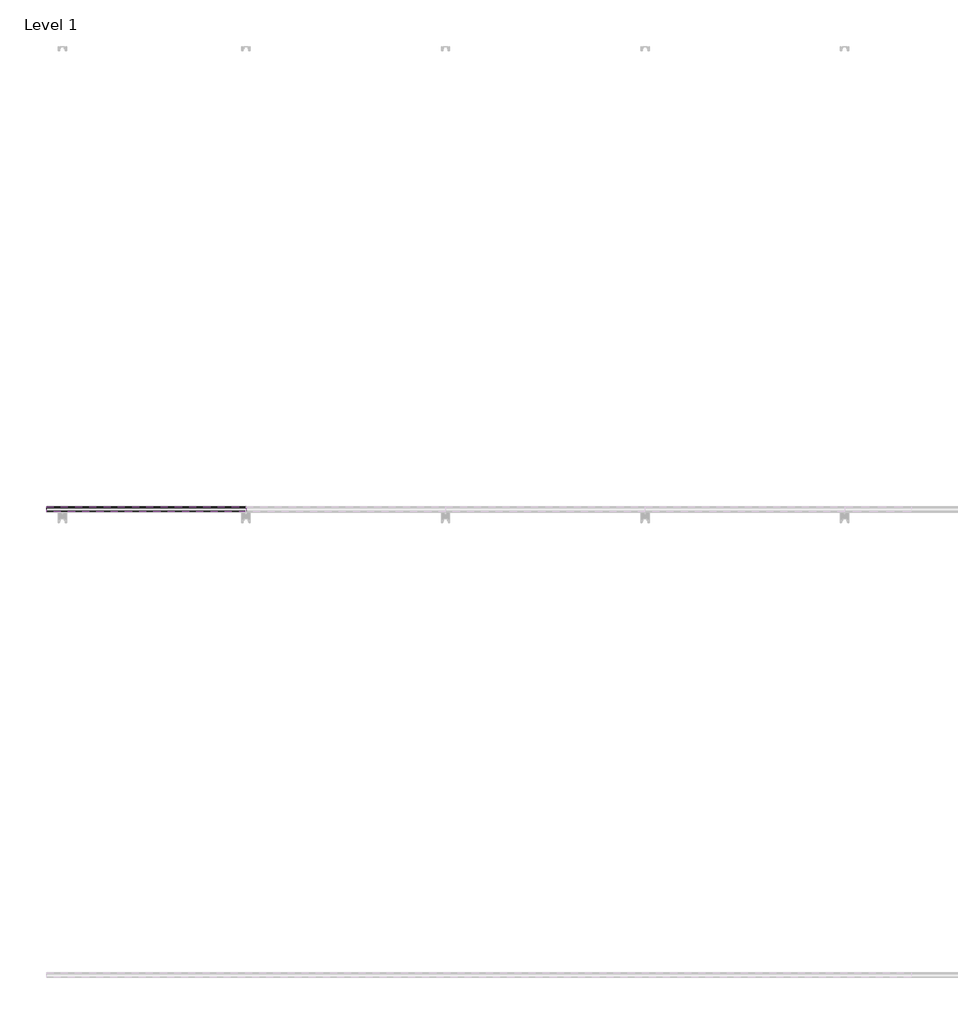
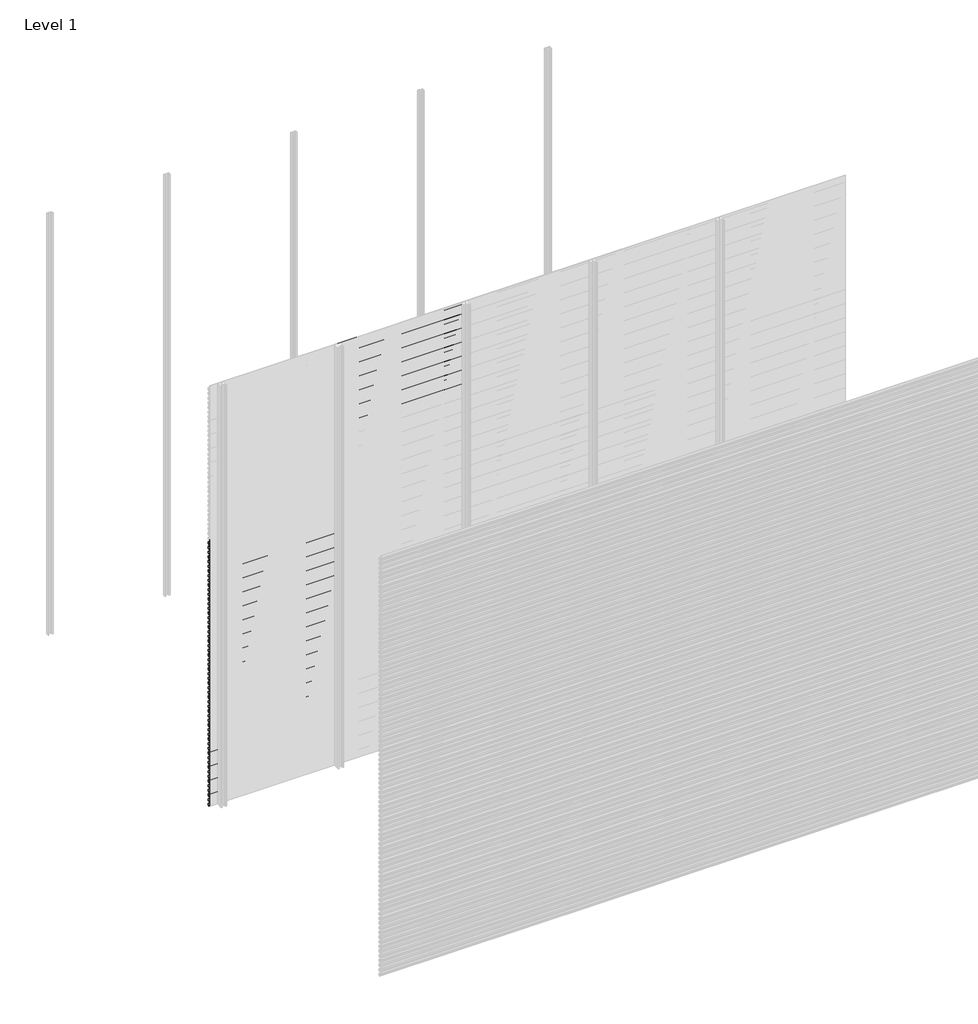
# One storey, part 71 of 96: 77 proxies.
"""IFC4 building model written with IfcOpenShell, lengths in millimetres."""

from ifc_helpers import new_model, si_unit, frame, origin, place, context, project, spatial, polyline, outline, extrude, element, save

model = new_model("IFC4")

# Units and contexts
model_context = context("Model", 3, world=origin())
ifc_project = project(units=[si_unit("LENGTHUNIT", "METRE", prefix="MILLI")], contexts=[model_context])

# Site, building, storey
site = spatial("IfcSite", under=ifc_project)
building = spatial("IfcBuilding", under=site)
storey = spatial("IfcBuildingStorey", under=building, Name="Level 1", Elevation=0.0)

# Proxies
placement = place(None, origin())
element("IfcBuildingElementProxy", 1, Name="Wall Sweeps", at=placement, inside=storey, context=model_context, shape_type="SweptSolid", body=[
    extrude(outline(polyline([(-11977.6, 1872.8655033), (-11977.6, 1858.5779188), (-11982.4114965, 1855.8), (-11982.4114965, 1857.0701706), (-11978.85, 1859.1264016), (-11978.85, 1872.1437382), (-11998.0, 1883.2000799), (-11998.0, 1898.1), (-11996.75, 1898.1), (-11996.75, 1883.9217609), (-11977.6, 1872.8655033)])), frame((0.0, 0.0, 0.0), z_axis=(1.0, 0.0, 0.0), x_axis=(0.0, 1.0, 0.0)), (0.0, 0.0, 1.0), 857.1428571),
])
element("IfcBuildingElementProxy", 2, Name="Wall Sweeps", at=placement, inside=storey, context=model_context, shape_type="SweptSolid", body=[
    extrude(outline(polyline([(-11977.6, 1839.5655033), (-11977.6, 1825.2779188), (-11982.4114965, 1822.5), (-11982.4114965, 1823.7701706), (-11978.85, 1825.8264016), (-11978.85, 1838.8437382), (-11998.0, 1849.9000799), (-11998.0, 1864.8), (-11996.75, 1864.8), (-11996.75, 1850.6217609), (-11977.6, 1839.5655033)])), frame((0.0, 0.0, 0.0), z_axis=(1.0, 0.0, 0.0), x_axis=(0.0, 1.0, 0.0)), (0.0, 0.0, 1.0), 857.1428571),
])
element("IfcBuildingElementProxy", 3, Name="Wall Sweeps", at=placement, inside=storey, context=model_context, shape_type="SweptSolid", body=[
    extrude(outline(polyline([(-11977.6, 1806.2655033), (-11977.6, 1791.9779188), (-11982.4114965, 1789.2), (-11982.4114965, 1790.4701706), (-11978.85, 1792.5264016), (-11978.85, 1805.5437382), (-11998.0, 1816.6000799), (-11998.0, 1831.5), (-11996.75, 1831.5), (-11996.75, 1817.3217609), (-11977.6, 1806.2655033)])), frame((0.0, 0.0, 0.0), z_axis=(1.0, 0.0, 0.0), x_axis=(0.0, 1.0, 0.0)), (0.0, 0.0, 1.0), 857.1428571),
])
element("IfcBuildingElementProxy", 4, Name="Wall Sweeps", at=placement, inside=storey, context=model_context, shape_type="SweptSolid", body=[
    extrude(outline(polyline([(-11977.6, 1772.9655033), (-11977.6, 1758.6779188), (-11982.4114965, 1755.9), (-11982.4114965, 1757.1701706), (-11978.85, 1759.2264016), (-11978.85, 1772.2437382), (-11998.0, 1783.3000799), (-11998.0, 1798.2), (-11996.75, 1798.2), (-11996.75, 1784.0217609), (-11977.6, 1772.9655033)])), frame((0.0, 0.0, 0.0), z_axis=(1.0, 0.0, 0.0), x_axis=(0.0, 1.0, 0.0)), (0.0, 0.0, 1.0), 857.1428571),
])
element("IfcBuildingElementProxy", 5, Name="Wall Sweeps", at=placement, inside=storey, context=model_context, shape_type="SweptSolid", body=[
    extrude(outline(polyline([(-11977.6, 1739.6655033), (-11977.6, 1725.3779188), (-11982.4114965, 1722.6), (-11982.4114965, 1723.8701706), (-11978.85, 1725.9264016), (-11978.85, 1738.9437382), (-11998.0, 1750.0000799), (-11998.0, 1764.9), (-11996.75, 1764.9), (-11996.75, 1750.7217609), (-11977.6, 1739.6655033)])), frame((0.0, 0.0, 0.0), z_axis=(1.0, 0.0, 0.0), x_axis=(0.0, 1.0, 0.0)), (0.0, 0.0, 1.0), 857.1428571),
])
element("IfcBuildingElementProxy", 6, Name="Wall Sweeps", at=placement, inside=storey, context=model_context, shape_type="SweptSolid", body=[
    extrude(outline(polyline([(-11977.6, 1706.3655033), (-11977.6, 1692.0779188), (-11982.4114965, 1689.3), (-11982.4114965, 1690.5701706), (-11978.85, 1692.6264016), (-11978.85, 1705.6437382), (-11998.0, 1716.7000799), (-11998.0, 1731.6), (-11996.75, 1731.6), (-11996.75, 1717.4217609), (-11977.6, 1706.3655033)])), frame((0.0, 0.0, 0.0), z_axis=(1.0, 0.0, 0.0), x_axis=(0.0, 1.0, 0.0)), (0.0, 0.0, 1.0), 857.1428571),
])
element("IfcBuildingElementProxy", 7, Name="Wall Sweeps", at=placement, inside=storey, context=model_context, shape_type="SweptSolid", body=[
    extrude(outline(polyline([(-11977.6, 1673.0655033), (-11977.6, 1658.7779188), (-11982.4114965, 1656.0), (-11982.4114965, 1657.2701706), (-11978.85, 1659.3264016), (-11978.85, 1672.3437382), (-11998.0, 1683.4000799), (-11998.0, 1698.3), (-11996.75, 1698.3), (-11996.75, 1684.1217609), (-11977.6, 1673.0655033)])), frame((0.0, 0.0, 0.0), z_axis=(1.0, 0.0, 0.0), x_axis=(0.0, 1.0, 0.0)), (0.0, 0.0, 1.0), 857.1428571),
])
element("IfcBuildingElementProxy", 8, Name="Wall Sweeps", at=placement, inside=storey, context=model_context, shape_type="SweptSolid", body=[
    extrude(outline(polyline([(-11977.6, 1639.7655033), (-11977.6, 1625.4779188), (-11982.4114965, 1622.7), (-11982.4114965, 1623.9701706), (-11978.85, 1626.0264016), (-11978.85, 1639.0437382), (-11998.0, 1650.1000799), (-11998.0, 1665.0), (-11996.75, 1665.0), (-11996.75, 1650.8217609), (-11977.6, 1639.7655033)])), frame((0.0, 0.0, 0.0), z_axis=(1.0, 0.0, 0.0), x_axis=(0.0, 1.0, 0.0)), (0.0, 0.0, 1.0), 857.1428571),
])
element("IfcBuildingElementProxy", 9, Name="Wall Sweeps", at=placement, inside=storey, context=model_context, shape_type="SweptSolid", body=[
    extrude(outline(polyline([(-11977.6, 1606.4655033), (-11977.6, 1592.1779188), (-11982.4114965, 1589.4), (-11982.4114965, 1590.6701706), (-11978.85, 1592.7264016), (-11978.85, 1605.7437382), (-11998.0, 1616.8000799), (-11998.0, 1631.7), (-11996.75, 1631.7), (-11996.75, 1617.5217609), (-11977.6, 1606.4655033)])), frame((0.0, 0.0, 0.0), z_axis=(1.0, 0.0, 0.0), x_axis=(0.0, 1.0, 0.0)), (0.0, 0.0, 1.0), 857.1428571),
])
element("IfcBuildingElementProxy", 10, Name="Wall Sweeps", at=placement, inside=storey, context=model_context, shape_type="SweptSolid", body=[
    extrude(outline(polyline([(-11977.6, 1573.1655033), (-11977.6, 1558.8779188), (-11982.4114965, 1556.1), (-11982.4114965, 1557.3701706), (-11978.85, 1559.4264016), (-11978.85, 1572.4437382), (-11998.0, 1583.5000799), (-11998.0, 1598.4), (-11996.75, 1598.4), (-11996.75, 1584.2217609), (-11977.6, 1573.1655033)])), frame((0.0, 0.0, 0.0), z_axis=(1.0, 0.0, 0.0), x_axis=(0.0, 1.0, 0.0)), (0.0, 0.0, 1.0), 857.1428571),
])
element("IfcBuildingElementProxy", 11, Name="Wall Sweeps", at=placement, inside=storey, context=model_context, shape_type="SweptSolid", body=[
    extrude(outline(polyline([(-11977.6, 1539.8655033), (-11977.6, 1525.5779188), (-11982.4114965, 1522.8), (-11982.4114965, 1524.0701706), (-11978.85, 1526.1264016), (-11978.85, 1539.1437382), (-11998.0, 1550.2000799), (-11998.0, 1565.1), (-11996.75, 1565.1), (-11996.75, 1550.9217609), (-11977.6, 1539.8655033)])), frame((0.0, 0.0, 0.0), z_axis=(1.0, 0.0, 0.0), x_axis=(0.0, 1.0, 0.0)), (0.0, 0.0, 1.0), 857.1428571),
])
element("IfcBuildingElementProxy", 12, Name="Wall Sweeps", at=placement, inside=storey, context=model_context, shape_type="SweptSolid", body=[
    extrude(outline(polyline([(-11977.6, 1506.5655033), (-11977.6, 1492.2779188), (-11982.4114965, 1489.5), (-11982.4114965, 1490.7701706), (-11978.85, 1492.8264016), (-11978.85, 1505.8437382), (-11998.0, 1516.9000799), (-11998.0, 1531.8), (-11996.75, 1531.8), (-11996.75, 1517.6217609), (-11977.6, 1506.5655033)])), frame((0.0, 0.0, 0.0), z_axis=(1.0, 0.0, 0.0), x_axis=(0.0, 1.0, 0.0)), (0.0, 0.0, 1.0), 857.1428571),
])
element("IfcBuildingElementProxy", 13, Name="Wall Sweeps", at=placement, inside=storey, context=model_context, shape_type="SweptSolid", body=[
    extrude(outline(polyline([(-11977.6, 1473.2655033), (-11977.6, 1458.9779188), (-11982.4114965, 1456.2), (-11982.4114965, 1457.4701706), (-11978.85, 1459.5264016), (-11978.85, 1472.5437382), (-11998.0, 1483.6000799), (-11998.0, 1498.5), (-11996.75, 1498.5), (-11996.75, 1484.3217609), (-11977.6, 1473.2655033)])), frame((0.0, 0.0, 0.0), z_axis=(1.0, 0.0, 0.0), x_axis=(0.0, 1.0, 0.0)), (0.0, 0.0, 1.0), 857.1428571),
])
element("IfcBuildingElementProxy", 14, Name="Wall Sweeps", at=placement, inside=storey, context=model_context, shape_type="SweptSolid", body=[
    extrude(outline(polyline([(-11977.6, 1439.9655033), (-11977.6, 1425.6779188), (-11982.4114965, 1422.9), (-11982.4114965, 1424.1701706), (-11978.85, 1426.2264016), (-11978.85, 1439.2437382), (-11998.0, 1450.3000799), (-11998.0, 1465.2), (-11996.75, 1465.2), (-11996.75, 1451.0217609), (-11977.6, 1439.9655033)])), frame((0.0, 0.0, 0.0), z_axis=(1.0, 0.0, 0.0), x_axis=(0.0, 1.0, 0.0)), (0.0, 0.0, 1.0), 857.1428571),
])
element("IfcBuildingElementProxy", 15, Name="Wall Sweeps", at=placement, inside=storey, context=model_context, shape_type="SweptSolid", body=[
    extrude(outline(polyline([(-11977.6, 1406.6655033), (-11977.6, 1392.3779188), (-11982.4114965, 1389.6), (-11982.4114965, 1390.8701706), (-11978.85, 1392.9264016), (-11978.85, 1405.9437382), (-11998.0, 1417.0000799), (-11998.0, 1431.9), (-11996.75, 1431.9), (-11996.75, 1417.7217609), (-11977.6, 1406.6655033)])), frame((0.0, 0.0, 0.0), z_axis=(1.0, 0.0, 0.0), x_axis=(0.0, 1.0, 0.0)), (0.0, 0.0, 1.0), 857.1428571),
])
element("IfcBuildingElementProxy", 16, Name="Wall Sweeps", at=placement, inside=storey, context=model_context, shape_type="SweptSolid", body=[
    extrude(outline(polyline([(-11977.6, 1373.3655033), (-11977.6, 1359.0779188), (-11982.4114965, 1356.3), (-11982.4114965, 1357.5701706), (-11978.85, 1359.6264016), (-11978.85, 1372.6437382), (-11998.0, 1383.7000799), (-11998.0, 1398.6), (-11996.75, 1398.6), (-11996.75, 1384.4217609), (-11977.6, 1373.3655033)])), frame((0.0, 0.0, 0.0), z_axis=(1.0, 0.0, 0.0), x_axis=(0.0, 1.0, 0.0)), (0.0, 0.0, 1.0), 857.1428571),
])
element("IfcBuildingElementProxy", 17, Name="Wall Sweeps", at=placement, inside=storey, context=model_context, shape_type="SweptSolid", body=[
    extrude(outline(polyline([(-11977.6, 1340.0655033), (-11977.6, 1325.7779188), (-11982.4114965, 1323.0), (-11982.4114965, 1324.2701706), (-11978.85, 1326.3264016), (-11978.85, 1339.3437382), (-11998.0, 1350.4000799), (-11998.0, 1365.3), (-11996.75, 1365.3), (-11996.75, 1351.1217609), (-11977.6, 1340.0655033)])), frame((0.0, 0.0, 0.0), z_axis=(1.0, 0.0, 0.0), x_axis=(0.0, 1.0, 0.0)), (0.0, 0.0, 1.0), 857.1428571),
])
element("IfcBuildingElementProxy", 18, Name="Wall Sweeps", at=placement, inside=storey, context=model_context, shape_type="SweptSolid", body=[
    extrude(outline(polyline([(-11977.6, 1306.7655033), (-11977.6, 1292.4779188), (-11982.4114965, 1289.7), (-11982.4114965, 1290.9701706), (-11978.85, 1293.0264016), (-11978.85, 1306.0437382), (-11998.0, 1317.1000799), (-11998.0, 1332.0), (-11996.75, 1332.0), (-11996.75, 1317.8217609), (-11977.6, 1306.7655033)])), frame((0.0, 0.0, 0.0), z_axis=(1.0, 0.0, 0.0), x_axis=(0.0, 1.0, 0.0)), (0.0, 0.0, 1.0), 857.1428571),
])
element("IfcBuildingElementProxy", 19, Name="Wall Sweeps", at=placement, inside=storey, context=model_context, shape_type="SweptSolid", body=[
    extrude(outline(polyline([(-11977.6, 1273.4655033), (-11977.6, 1259.1779188), (-11982.4114965, 1256.4), (-11982.4114965, 1257.6701706), (-11978.85, 1259.7264016), (-11978.85, 1272.7437382), (-11998.0, 1283.8000799), (-11998.0, 1298.7), (-11996.75, 1298.7), (-11996.75, 1284.5217609), (-11977.6, 1273.4655033)])), frame((0.0, 0.0, 0.0), z_axis=(1.0, 0.0, 0.0), x_axis=(0.0, 1.0, 0.0)), (0.0, 0.0, 1.0), 857.1428571),
])
element("IfcBuildingElementProxy", 20, Name="Wall Sweeps", at=placement, inside=storey, context=model_context, shape_type="SweptSolid", body=[
    extrude(outline(polyline([(-11977.6, 1240.1655033), (-11977.6, 1225.8779188), (-11982.4114965, 1223.1), (-11982.4114965, 1224.3701706), (-11978.85, 1226.4264016), (-11978.85, 1239.4437382), (-11998.0, 1250.5000799), (-11998.0, 1265.4), (-11996.75, 1265.4), (-11996.75, 1251.2217609), (-11977.6, 1240.1655033)])), frame((0.0, 0.0, 0.0), z_axis=(1.0, 0.0, 0.0), x_axis=(0.0, 1.0, 0.0)), (0.0, 0.0, 1.0), 857.1428571),
])
element("IfcBuildingElementProxy", 21, Name="Wall Sweeps", at=placement, inside=storey, context=model_context, shape_type="SweptSolid", body=[
    extrude(outline(polyline([(-11977.6, 1206.8655033), (-11977.6, 1192.5779188), (-11982.4114965, 1189.8), (-11982.4114965, 1191.0701706), (-11978.85, 1193.1264016), (-11978.85, 1206.1437382), (-11998.0, 1217.2000799), (-11998.0, 1232.1), (-11996.75, 1232.1), (-11996.75, 1217.9217609), (-11977.6, 1206.8655033)])), frame((0.0, 0.0, 0.0), z_axis=(1.0, 0.0, 0.0), x_axis=(0.0, 1.0, 0.0)), (0.0, 0.0, 1.0), 857.1428571),
])
element("IfcBuildingElementProxy", 22, Name="Wall Sweeps", at=placement, inside=storey, context=model_context, shape_type="SweptSolid", body=[
    extrude(outline(polyline([(-11977.6, 1173.5655033), (-11977.6, 1159.2779188), (-11982.4114965, 1156.5), (-11982.4114965, 1157.7701706), (-11978.85, 1159.8264016), (-11978.85, 1172.8437382), (-11998.0, 1183.9000799), (-11998.0, 1198.8), (-11996.75, 1198.8), (-11996.75, 1184.6217609), (-11977.6, 1173.5655033)])), frame((0.0, 0.0, 0.0), z_axis=(1.0, 0.0, 0.0), x_axis=(0.0, 1.0, 0.0)), (0.0, 0.0, 1.0), 857.1428571),
])
element("IfcBuildingElementProxy", 23, Name="Wall Sweeps", at=placement, inside=storey, context=model_context, shape_type="SweptSolid", body=[
    extrude(outline(polyline([(-11977.6, 1140.2655033), (-11977.6, 1125.9779188), (-11982.4114965, 1123.2), (-11982.4114965, 1124.4701706), (-11978.85, 1126.5264016), (-11978.85, 1139.5437382), (-11998.0, 1150.6000799), (-11998.0, 1165.5), (-11996.75, 1165.5), (-11996.75, 1151.3217609), (-11977.6, 1140.2655033)])), frame((0.0, 0.0, 0.0), z_axis=(1.0, 0.0, 0.0), x_axis=(0.0, 1.0, 0.0)), (0.0, 0.0, 1.0), 857.1428571),
])
element("IfcBuildingElementProxy", 24, Name="Wall Sweeps", at=placement, inside=storey, context=model_context, shape_type="SweptSolid", body=[
    extrude(outline(polyline([(-11977.6, 1106.9655033), (-11977.6, 1092.6779188), (-11982.4114965, 1089.9), (-11982.4114965, 1091.1701706), (-11978.85, 1093.2264016), (-11978.85, 1106.2437382), (-11998.0, 1117.3000799), (-11998.0, 1132.2), (-11996.75, 1132.2), (-11996.75, 1118.0217609), (-11977.6, 1106.9655033)])), frame((0.0, 0.0, 0.0), z_axis=(1.0, 0.0, 0.0), x_axis=(0.0, 1.0, 0.0)), (0.0, 0.0, 1.0), 857.1428571),
])
element("IfcBuildingElementProxy", 25, Name="Wall Sweeps", at=placement, inside=storey, context=model_context, shape_type="SweptSolid", body=[
    extrude(outline(polyline([(-11977.6, 1073.6655033), (-11977.6, 1059.3779188), (-11982.4114965, 1056.6), (-11982.4114965, 1057.8701706), (-11978.85, 1059.9264016), (-11978.85, 1072.9437382), (-11998.0, 1084.0000799), (-11998.0, 1098.9), (-11996.75, 1098.9), (-11996.75, 1084.7217609), (-11977.6, 1073.6655033)])), frame((0.0, 0.0, 0.0), z_axis=(1.0, 0.0, 0.0), x_axis=(0.0, 1.0, 0.0)), (0.0, 0.0, 1.0), 857.1428571),
])
element("IfcBuildingElementProxy", 26, Name="Wall Sweeps", at=placement, inside=storey, context=model_context, shape_type="SweptSolid", body=[
    extrude(outline(polyline([(-11977.6, 1040.3655033), (-11977.6, 1026.0779188), (-11982.4114965, 1023.3), (-11982.4114965, 1024.5701706), (-11978.85, 1026.6264016), (-11978.85, 1039.6437382), (-11998.0, 1050.7000799), (-11998.0, 1065.6), (-11996.75, 1065.6), (-11996.75, 1051.4217609), (-11977.6, 1040.3655033)])), frame((0.0, 0.0, 0.0), z_axis=(1.0, 0.0, 0.0), x_axis=(0.0, 1.0, 0.0)), (0.0, 0.0, 1.0), 857.1428571),
])
element("IfcBuildingElementProxy", 27, Name="Wall Sweeps", at=placement, inside=storey, context=model_context, shape_type="SweptSolid", body=[
    extrude(outline(polyline([(-11977.6, 1007.0655033), (-11977.6, 992.7779188), (-11982.4114965, 990.0), (-11982.4114965, 991.2701706), (-11978.85, 993.3264016), (-11978.85, 1006.3437382), (-11998.0, 1017.4000799), (-11998.0, 1032.3), (-11996.75, 1032.3), (-11996.75, 1018.1217609), (-11977.6, 1007.0655033)])), frame((0.0, 0.0, 0.0), z_axis=(1.0, 0.0, 0.0), x_axis=(0.0, 1.0, 0.0)), (0.0, 0.0, 1.0), 857.1428571),
])
element("IfcBuildingElementProxy", 28, Name="Wall Sweeps", at=placement, inside=storey, context=model_context, shape_type="SweptSolid", body=[
    extrude(outline(polyline([(-11977.6, 973.7655033), (-11977.6, 959.4779188), (-11982.4114965, 956.7), (-11982.4114965, 957.9701706), (-11978.85, 960.0264016), (-11978.85, 973.0437382), (-11998.0, 984.1000799), (-11998.0, 999.0), (-11996.75, 999.0), (-11996.75, 984.8217609), (-11977.6, 973.7655033)])), frame((0.0, 0.0, 0.0), z_axis=(1.0, 0.0, 0.0), x_axis=(0.0, 1.0, 0.0)), (0.0, 0.0, 1.0), 857.1428571),
])
element("IfcBuildingElementProxy", 29, Name="Wall Sweeps", at=placement, inside=storey, context=model_context, shape_type="SweptSolid", body=[
    extrude(outline(polyline([(-11977.6, 940.4655033), (-11977.6, 926.1779188), (-11982.4114965, 923.4), (-11982.4114965, 924.6701706), (-11978.85, 926.7264016), (-11978.85, 939.7437382), (-11998.0, 950.8000799), (-11998.0, 965.7), (-11996.75, 965.7), (-11996.75, 951.5217609), (-11977.6, 940.4655033)])), frame((0.0, 0.0, 0.0), z_axis=(1.0, 0.0, 0.0), x_axis=(0.0, 1.0, 0.0)), (0.0, 0.0, 1.0), 857.1428571),
])
element("IfcBuildingElementProxy", 30, Name="Wall Sweeps", at=placement, inside=storey, context=model_context, shape_type="SweptSolid", body=[
    extrude(outline(polyline([(-11977.6, 907.1655033), (-11977.6, 892.8779188), (-11982.4114965, 890.1), (-11982.4114965, 891.3701706), (-11978.85, 893.4264016), (-11978.85, 906.4437382), (-11998.0, 917.5000799), (-11998.0, 932.4), (-11996.75, 932.4), (-11996.75, 918.2217609), (-11977.6, 907.1655033)])), frame((0.0, 0.0, 0.0), z_axis=(1.0, 0.0, 0.0), x_axis=(0.0, 1.0, 0.0)), (0.0, 0.0, 1.0), 857.1428571),
])
element("IfcBuildingElementProxy", 31, Name="Wall Sweeps", at=placement, inside=storey, context=model_context, shape_type="SweptSolid", body=[
    extrude(outline(polyline([(-11977.6, 873.8655033), (-11977.6, 859.5779188), (-11982.4114965, 856.8), (-11982.4114965, 858.0701706), (-11978.85, 860.1264016), (-11978.85, 873.1437382), (-11998.0, 884.2000799), (-11998.0, 899.1), (-11996.75, 899.1), (-11996.75, 884.9217609), (-11977.6, 873.8655033)])), frame((0.0, 0.0, 0.0), z_axis=(1.0, 0.0, 0.0), x_axis=(0.0, 1.0, 0.0)), (0.0, 0.0, 1.0), 857.1428571),
])
element("IfcBuildingElementProxy", 32, Name="Wall Sweeps", at=placement, inside=storey, context=model_context, shape_type="SweptSolid", body=[
    extrude(outline(polyline([(-11977.6, 840.5655033), (-11977.6, 826.2779188), (-11982.4114965, 823.5), (-11982.4114965, 824.7701706), (-11978.85, 826.8264016), (-11978.85, 839.8437382), (-11998.0, 850.9000799), (-11998.0, 865.8), (-11996.75, 865.8), (-11996.75, 851.6217609), (-11977.6, 840.5655033)])), frame((0.0, 0.0, 0.0), z_axis=(1.0, 0.0, 0.0), x_axis=(0.0, 1.0, 0.0)), (0.0, 0.0, 1.0), 857.1428571),
])
element("IfcBuildingElementProxy", 33, Name="Wall Sweeps", at=placement, inside=storey, context=model_context, shape_type="SweptSolid", body=[
    extrude(outline(polyline([(-11977.6, 807.2655033), (-11977.6, 792.9779188), (-11982.4114965, 790.2), (-11982.4114965, 791.4701706), (-11978.85, 793.5264016), (-11978.85, 806.5437382), (-11998.0, 817.6000799), (-11998.0, 832.5), (-11996.75, 832.5), (-11996.75, 818.3217609), (-11977.6, 807.2655033)])), frame((0.0, 0.0, 0.0), z_axis=(1.0, 0.0, 0.0), x_axis=(0.0, 1.0, 0.0)), (0.0, 0.0, 1.0), 857.1428571),
])
element("IfcBuildingElementProxy", 34, Name="Wall Sweeps", at=placement, inside=storey, context=model_context, shape_type="SweptSolid", body=[
    extrude(outline(polyline([(-11977.6, 773.9655033), (-11977.6, 759.6779188), (-11982.4114965, 756.9), (-11982.4114965, 758.1701706), (-11978.85, 760.2264016), (-11978.85, 773.2437382), (-11998.0, 784.3000799), (-11998.0, 799.2), (-11996.75, 799.2), (-11996.75, 785.0217609), (-11977.6, 773.9655033)])), frame((0.0, 0.0, 0.0), z_axis=(1.0, 0.0, 0.0), x_axis=(0.0, 1.0, 0.0)), (0.0, 0.0, 1.0), 857.1428571),
])
element("IfcBuildingElementProxy", 35, Name="Wall Sweeps", at=placement, inside=storey, context=model_context, shape_type="SweptSolid", body=[
    extrude(outline(polyline([(-11977.6, 740.6655033), (-11977.6, 726.3779188), (-11982.4114965, 723.6), (-11982.4114965, 724.8701706), (-11978.85, 726.9264016), (-11978.85, 739.9437382), (-11998.0, 751.0000799), (-11998.0, 765.9), (-11996.75, 765.9), (-11996.75, 751.7217609), (-11977.6, 740.6655033)])), frame((0.0, 0.0, 0.0), z_axis=(1.0, 0.0, 0.0), x_axis=(0.0, 1.0, 0.0)), (0.0, 0.0, 1.0), 857.1428571),
])
element("IfcBuildingElementProxy", 36, Name="Wall Sweeps", at=placement, inside=storey, context=model_context, shape_type="SweptSolid", body=[
    extrude(outline(polyline([(-11977.6, 707.3655033), (-11977.6, 693.0779188), (-11982.4114965, 690.3), (-11982.4114965, 691.5701706), (-11978.85, 693.6264016), (-11978.85, 706.6437382), (-11998.0, 717.7000799), (-11998.0, 732.6), (-11996.75, 732.6), (-11996.75, 718.4217609), (-11977.6, 707.3655033)])), frame((0.0, 0.0, 0.0), z_axis=(1.0, 0.0, 0.0), x_axis=(0.0, 1.0, 0.0)), (0.0, 0.0, 1.0), 857.1428571),
])
element("IfcBuildingElementProxy", 37, Name="Wall Sweeps", at=placement, inside=storey, context=model_context, shape_type="SweptSolid", body=[
    extrude(outline(polyline([(-11977.6, 674.0655033), (-11977.6, 659.7779188), (-11982.4114965, 657.0), (-11982.4114965, 658.2701706), (-11978.85, 660.3264016), (-11978.85, 673.3437382), (-11998.0, 684.4000799), (-11998.0, 699.3), (-11996.75, 699.3), (-11996.75, 685.1217609), (-11977.6, 674.0655033)])), frame((0.0, 0.0, 0.0), z_axis=(1.0, 0.0, 0.0), x_axis=(0.0, 1.0, 0.0)), (0.0, 0.0, 1.0), 857.1428571),
])
element("IfcBuildingElementProxy", 38, Name="Wall Sweeps", at=placement, inside=storey, context=model_context, shape_type="SweptSolid", body=[
    extrude(outline(polyline([(-11977.6, 640.7655033), (-11977.6, 626.4779188), (-11982.4114965, 623.7), (-11982.4114965, 624.9701706), (-11978.85, 627.0264016), (-11978.85, 640.0437382), (-11998.0, 651.1000799), (-11998.0, 666.0), (-11996.75, 666.0), (-11996.75, 651.8217609), (-11977.6, 640.7655033)])), frame((0.0, 0.0, 0.0), z_axis=(1.0, 0.0, 0.0), x_axis=(0.0, 1.0, 0.0)), (0.0, 0.0, 1.0), 857.1428571),
])
element("IfcBuildingElementProxy", 39, Name="Wall Sweeps", at=placement, inside=storey, context=model_context, shape_type="SweptSolid", body=[
    extrude(outline(polyline([(-11977.6, 607.4655033), (-11977.6, 593.1779188), (-11982.4114965, 590.4), (-11982.4114965, 591.6701706), (-11978.85, 593.7264016), (-11978.85, 606.7437382), (-11998.0, 617.8000799), (-11998.0, 632.7), (-11996.75, 632.7), (-11996.75, 618.5217609), (-11977.6, 607.4655033)])), frame((0.0, 0.0, 0.0), z_axis=(1.0, 0.0, 0.0), x_axis=(0.0, 1.0, 0.0)), (0.0, 0.0, 1.0), 857.1428571),
])
element("IfcBuildingElementProxy", 40, Name="Wall Sweeps", at=placement, inside=storey, context=model_context, shape_type="SweptSolid", body=[
    extrude(outline(polyline([(-11977.6, 574.1655033), (-11977.6, 559.8779188), (-11982.4114965, 557.1), (-11982.4114965, 558.3701706), (-11978.85, 560.4264016), (-11978.85, 573.4437382), (-11998.0, 584.5000799), (-11998.0, 599.4), (-11996.75, 599.4), (-11996.75, 585.2217609), (-11977.6, 574.1655033)])), frame((0.0, 0.0, 0.0), z_axis=(1.0, 0.0, 0.0), x_axis=(0.0, 1.0, 0.0)), (0.0, 0.0, 1.0), 857.1428571),
])
element("IfcBuildingElementProxy", 41, Name="Wall Sweeps", at=placement, inside=storey, context=model_context, shape_type="SweptSolid", body=[
    extrude(outline(polyline([(-11977.6, 540.8655033), (-11977.6, 526.5779188), (-11982.4114965, 523.8), (-11982.4114965, 525.0701706), (-11978.85, 527.1264016), (-11978.85, 540.1437382), (-11998.0, 551.2000799), (-11998.0, 566.1), (-11996.75, 566.1), (-11996.75, 551.9217609), (-11977.6, 540.8655033)])), frame((0.0, 0.0, 0.0), z_axis=(1.0, 0.0, 0.0), x_axis=(0.0, 1.0, 0.0)), (0.0, 0.0, 1.0), 857.1428571),
])
element("IfcBuildingElementProxy", 42, Name="Wall Sweeps", at=placement, inside=storey, context=model_context, shape_type="SweptSolid", body=[
    extrude(outline(polyline([(-11977.6, 507.5655033), (-11977.6, 493.2779188), (-11982.4114965, 490.5), (-11982.4114965, 491.7701706), (-11978.85, 493.8264016), (-11978.85, 506.8437382), (-11998.0, 517.9000799), (-11998.0, 532.8), (-11996.75, 532.8), (-11996.75, 518.6217609), (-11977.6, 507.5655033)])), frame((0.0, 0.0, 0.0), z_axis=(1.0, 0.0, 0.0), x_axis=(0.0, 1.0, 0.0)), (0.0, 0.0, 1.0), 857.1428571),
])
element("IfcBuildingElementProxy", 43, Name="Wall Sweeps", at=placement, inside=storey, context=model_context, shape_type="SweptSolid", body=[
    extrude(outline(polyline([(-11977.6, 474.2655033), (-11977.6, 459.9779188), (-11982.4114965, 457.2), (-11982.4114965, 458.4701706), (-11978.85, 460.5264016), (-11978.85, 473.5437382), (-11998.0, 484.6000799), (-11998.0, 499.5), (-11996.75, 499.5), (-11996.75, 485.3217609), (-11977.6, 474.2655033)])), frame((0.0, 0.0, 0.0), z_axis=(1.0, 0.0, 0.0), x_axis=(0.0, 1.0, 0.0)), (0.0, 0.0, 1.0), 857.1428571),
])
element("IfcBuildingElementProxy", 44, Name="Wall Sweeps", at=placement, inside=storey, context=model_context, shape_type="SweptSolid", body=[
    extrude(outline(polyline([(-11977.6, 440.9655033), (-11977.6, 426.6779188), (-11982.4114965, 423.9), (-11982.4114965, 425.1701706), (-11978.85, 427.2264016), (-11978.85, 440.2437382), (-11998.0, 451.3000799), (-11998.0, 466.2), (-11996.75, 466.2), (-11996.75, 452.0217609), (-11977.6, 440.9655033)])), frame((0.0, 0.0, 0.0), z_axis=(1.0, 0.0, 0.0), x_axis=(0.0, 1.0, 0.0)), (0.0, 0.0, 1.0), 857.1428571),
])
element("IfcBuildingElementProxy", 45, Name="Wall Sweeps", at=placement, inside=storey, context=model_context, shape_type="SweptSolid", body=[
    extrude(outline(polyline([(-11977.6, 407.6655033), (-11977.6, 393.3779188), (-11982.4114965, 390.6), (-11982.4114965, 391.8701706), (-11978.85, 393.9264016), (-11978.85, 406.9437382), (-11998.0, 418.0000799), (-11998.0, 432.9), (-11996.75, 432.9), (-11996.75, 418.7217609), (-11977.6, 407.6655033)])), frame((0.0, 0.0, 0.0), z_axis=(1.0, 0.0, 0.0), x_axis=(0.0, 1.0, 0.0)), (0.0, 0.0, 1.0), 857.1428571),
])
element("IfcBuildingElementProxy", 46, Name="Wall Sweeps", at=placement, inside=storey, context=model_context, shape_type="SweptSolid", body=[
    extrude(outline(polyline([(-11977.6, 374.3655033), (-11977.6, 360.0779188), (-11982.4114965, 357.3), (-11982.4114965, 358.5701706), (-11978.85, 360.6264016), (-11978.85, 373.6437382), (-11998.0, 384.7000799), (-11998.0, 399.6), (-11996.75, 399.6), (-11996.75, 385.4217609), (-11977.6, 374.3655033)])), frame((0.0, 0.0, 0.0), z_axis=(1.0, 0.0, 0.0), x_axis=(0.0, 1.0, 0.0)), (0.0, 0.0, 1.0), 857.1428571),
])
element("IfcBuildingElementProxy", 47, Name="Wall Sweeps", at=placement, inside=storey, context=model_context, shape_type="SweptSolid", body=[
    extrude(outline(polyline([(-11977.6, 341.0655033), (-11977.6, 326.7779188), (-11982.4114965, 324.0), (-11982.4114965, 325.2701706), (-11978.85, 327.3264016), (-11978.85, 340.3437382), (-11998.0, 351.4000799), (-11998.0, 366.3), (-11996.75, 366.3), (-11996.75, 352.1217609), (-11977.6, 341.0655033)])), frame((0.0, 0.0, 0.0), z_axis=(1.0, 0.0, 0.0), x_axis=(0.0, 1.0, 0.0)), (0.0, 0.0, 1.0), 857.1428571),
])
element("IfcBuildingElementProxy", 48, Name="Wall Sweeps", at=placement, inside=storey, context=model_context, shape_type="SweptSolid", body=[
    extrude(outline(polyline([(-11977.6, 307.7655033), (-11977.6, 293.4779188), (-11982.4114965, 290.7), (-11982.4114965, 291.9701706), (-11978.85, 294.0264016), (-11978.85, 307.0437382), (-11998.0, 318.1000799), (-11998.0, 333.0), (-11996.75, 333.0), (-11996.75, 318.8217609), (-11977.6, 307.7655033)])), frame((0.0, 0.0, 0.0), z_axis=(1.0, 0.0, 0.0), x_axis=(0.0, 1.0, 0.0)), (0.0, 0.0, 1.0), 857.1428571),
])
element("IfcBuildingElementProxy", 49, Name="Wall Sweeps", at=placement, inside=storey, context=model_context, shape_type="SweptSolid", body=[
    extrude(outline(polyline([(-11977.6, 274.4655033), (-11977.6, 260.1779188), (-11982.4114965, 257.4), (-11982.4114965, 258.6701706), (-11978.85, 260.7264016), (-11978.85, 273.7437382), (-11998.0, 284.8000799), (-11998.0, 299.7), (-11996.75, 299.7), (-11996.75, 285.5217609), (-11977.6, 274.4655033)])), frame((0.0, 0.0, 0.0), z_axis=(1.0, 0.0, 0.0), x_axis=(0.0, 1.0, 0.0)), (0.0, 0.0, 1.0), 857.1428571),
])
element("IfcBuildingElementProxy", 50, Name="Wall Sweeps", at=placement, inside=storey, context=model_context, shape_type="SweptSolid", body=[
    extrude(outline(polyline([(-11977.6, 241.1655033), (-11977.6, 226.8779188), (-11982.4114965, 224.1), (-11982.4114965, 225.3701706), (-11978.85, 227.4264016), (-11978.85, 240.4437382), (-11998.0, 251.5000799), (-11998.0, 266.4), (-11996.75, 266.4), (-11996.75, 252.2217609), (-11977.6, 241.1655033)])), frame((0.0, 0.0, 0.0), z_axis=(1.0, 0.0, 0.0), x_axis=(0.0, 1.0, 0.0)), (0.0, 0.0, 1.0), 857.1428571),
])
element("IfcBuildingElementProxy", 51, Name="Wall Sweeps", at=placement, inside=storey, context=model_context, shape_type="SweptSolid", body=[
    extrude(outline(polyline([(-11977.6, 207.8655033), (-11977.6, 193.5779188), (-11982.4114965, 190.8), (-11982.4114965, 192.0701706), (-11978.85, 194.1264016), (-11978.85, 207.1437382), (-11998.0, 218.2000799), (-11998.0, 233.1), (-11996.75, 233.1), (-11996.75, 218.9217609), (-11977.6, 207.8655033)])), frame((0.0, 0.0, 0.0), z_axis=(1.0, 0.0, 0.0), x_axis=(0.0, 1.0, 0.0)), (0.0, 0.0, 1.0), 857.1428571),
])
element("IfcBuildingElementProxy", 52, Name="Wall Sweeps", at=placement, inside=storey, context=model_context, shape_type="SweptSolid", body=[
    extrude(outline(polyline([(-11977.6, 174.5655033), (-11977.6, 160.2779188), (-11982.4114965, 157.5), (-11982.4114965, 158.7701706), (-11978.85, 160.8264016), (-11978.85, 173.8437382), (-11998.0, 184.9000799), (-11998.0, 199.8), (-11996.75, 199.8), (-11996.75, 185.6217609), (-11977.6, 174.5655033)])), frame((0.0, 0.0, 0.0), z_axis=(1.0, 0.0, 0.0), x_axis=(0.0, 1.0, 0.0)), (0.0, 0.0, 1.0), 857.1428571),
])
element("IfcBuildingElementProxy", 53, Name="Wall Sweeps", at=placement, inside=storey, context=model_context, shape_type="SweptSolid", body=[
    extrude(outline(polyline([(-11977.6, 141.2655033), (-11977.6, 126.9779188), (-11982.4114965, 124.2), (-11982.4114965, 125.4701706), (-11978.85, 127.5264016), (-11978.85, 140.5437382), (-11998.0, 151.6000799), (-11998.0, 166.5), (-11996.75, 166.5), (-11996.75, 152.3217609), (-11977.6, 141.2655033)])), frame((0.0, 0.0, 0.0), z_axis=(1.0, 0.0, 0.0), x_axis=(0.0, 1.0, 0.0)), (0.0, 0.0, 1.0), 857.1428571),
])
element("IfcBuildingElementProxy", 54, Name="Wall Sweeps", at=placement, inside=storey, context=model_context, shape_type="SweptSolid", body=[
    extrude(outline(polyline([(-11977.6, 107.9655033), (-11977.6, 93.6779188), (-11982.4114965, 90.9), (-11982.4114965, 92.1701706), (-11978.85, 94.2264016), (-11978.85, 107.2437382), (-11998.0, 118.3000799), (-11998.0, 133.2), (-11996.75, 133.2), (-11996.75, 119.0217609), (-11977.6, 107.9655033)])), frame((0.0, 0.0, 0.0), z_axis=(1.0, 0.0, 0.0), x_axis=(0.0, 1.0, 0.0)), (0.0, 0.0, 1.0), 857.1428571),
])
element("IfcBuildingElementProxy", 55, Name="Wall Sweeps", at=placement, inside=storey, context=model_context, shape_type="SweptSolid", body=[
    extrude(outline(polyline([(-11977.6, 74.6655033), (-11977.6, 60.3779188), (-11982.4114965, 57.6), (-11982.4114965, 58.8701706), (-11978.85, 60.9264016), (-11978.85, 73.9437382), (-11998.0, 85.0000799), (-11998.0, 99.9), (-11996.75, 99.9), (-11996.75, 85.7217609), (-11977.6, 74.6655033)])), frame((0.0, 0.0, 0.0), z_axis=(1.0, 0.0, 0.0), x_axis=(0.0, 1.0, 0.0)), (0.0, 0.0, 1.0), 857.1428571),
])
element("IfcBuildingElementProxy", 56, Name="Wall Sweeps", at=placement, inside=storey, context=model_context, shape_type="SweptSolid", body=[
    extrude(outline(polyline([(-11977.6, 41.3655033), (-11977.6, 27.0779188), (-11982.4114965, 24.3), (-11982.4114965, 25.5701706), (-11978.85, 27.6264016), (-11978.85, 40.6437382), (-11998.0, 51.7000799), (-11998.0, 66.6), (-11996.75, 66.6), (-11996.75, 52.4217609), (-11977.6, 41.3655033)])), frame((0.0, 0.0, 0.0), z_axis=(1.0, 0.0, 0.0), x_axis=(0.0, 1.0, 0.0)), (0.0, 0.0, 1.0), 857.1428571),
])
element("IfcBuildingElementProxy", 57, Name="Wall Sweeps", at=placement, inside=storey, context=model_context, shape_type="SweptSolid", body=[
    extrude(outline(polyline([(-11977.6, 8.0655033), (-11977.6, -6.2220812), (-11982.4114965, -9.0), (-11982.4114965, -7.7298294), (-11978.85, -5.6735984), (-11978.85, 7.3437382), (-11998.0, 18.4000799), (-11998.0, 33.3), (-11996.75, 33.3), (-11996.75, 19.1217609), (-11977.6, 8.0655033)])), frame((0.0, 0.0, 0.0), z_axis=(1.0, 0.0, 0.0), x_axis=(0.0, 1.0, 0.0)), (0.0, 0.0, 1.0), 857.1428571),
])
element("IfcBuildingElementProxy", 58, Name="Wall Sweeps", at=placement, inside=storey, context=model_context, shape_type="SweptSolid", body=[
    extrude(outline(polyline([(-11977.6, 2971.7655033), (-11977.6, 2957.4779188), (-11982.4114965, 2954.7), (-11982.4114965, 2955.9701706), (-11978.85, 2958.0264016), (-11978.85, 2971.0437382), (-11998.0, 2982.1000799), (-11998.0, 2997.0), (-11996.75, 2997.0), (-11996.75, 2982.8217609), (-11977.6, 2971.7655033)])), frame((857.1428571, 0.0, 0.0), z_axis=(1.0, 0.0, 0.0), x_axis=(0.0, 1.0, 0.0)), (0.0, 0.0, 1.0), 857.1428571),
])
element("IfcBuildingElementProxy", 59, Name="Wall Sweeps", at=placement, inside=storey, context=model_context, shape_type="SweptSolid", body=[
    extrude(outline(polyline([(-11977.6, 2938.4655033), (-11977.6, 2924.1779188), (-11982.4114965, 2921.4), (-11982.4114965, 2922.6701706), (-11978.85, 2924.7264016), (-11978.85, 2937.7437382), (-11998.0, 2948.8000799), (-11998.0, 2963.7), (-11996.75, 2963.7), (-11996.75, 2949.5217609), (-11977.6, 2938.4655033)])), frame((857.1428571, 0.0, 0.0), z_axis=(1.0, 0.0, 0.0), x_axis=(0.0, 1.0, 0.0)), (0.0, 0.0, 1.0), 857.1428571),
])
element("IfcBuildingElementProxy", 60, Name="Wall Sweeps", at=placement, inside=storey, context=model_context, shape_type="SweptSolid", body=[
    extrude(outline(polyline([(-11977.6, 2905.1655033), (-11977.6, 2890.8779188), (-11982.4114965, 2888.1), (-11982.4114965, 2889.3701706), (-11978.85, 2891.4264016), (-11978.85, 2904.4437382), (-11998.0, 2915.5000799), (-11998.0, 2930.4), (-11996.75, 2930.4), (-11996.75, 2916.2217609), (-11977.6, 2905.1655033)])), frame((857.1428571, 0.0, 0.0), z_axis=(1.0, 0.0, 0.0), x_axis=(0.0, 1.0, 0.0)), (0.0, 0.0, 1.0), 857.1428571),
])
element("IfcBuildingElementProxy", 61, Name="Wall Sweeps", at=placement, inside=storey, context=model_context, shape_type="SweptSolid", body=[
    extrude(outline(polyline([(-11977.6, 2871.8655033), (-11977.6, 2857.5779188), (-11982.4114965, 2854.8), (-11982.4114965, 2856.0701706), (-11978.85, 2858.1264016), (-11978.85, 2871.1437382), (-11998.0, 2882.2000799), (-11998.0, 2897.1), (-11996.75, 2897.1), (-11996.75, 2882.9217609), (-11977.6, 2871.8655033)])), frame((857.1428571, 0.0, 0.0), z_axis=(1.0, 0.0, 0.0), x_axis=(0.0, 1.0, 0.0)), (0.0, 0.0, 1.0), 857.1428571),
])
element("IfcBuildingElementProxy", 62, Name="Wall Sweeps", at=placement, inside=storey, context=model_context, shape_type="SweptSolid", body=[
    extrude(outline(polyline([(-11977.6, 2838.5655033), (-11977.6, 2824.2779188), (-11982.4114965, 2821.5), (-11982.4114965, 2822.7701706), (-11978.85, 2824.8264016), (-11978.85, 2837.8437382), (-11998.0, 2848.9000799), (-11998.0, 2863.8), (-11996.75, 2863.8), (-11996.75, 2849.6217609), (-11977.6, 2838.5655033)])), frame((857.1428571, 0.0, 0.0), z_axis=(1.0, 0.0, 0.0), x_axis=(0.0, 1.0, 0.0)), (0.0, 0.0, 1.0), 857.1428571),
])
element("IfcBuildingElementProxy", 63, Name="Wall Sweeps", at=placement, inside=storey, context=model_context, shape_type="SweptSolid", body=[
    extrude(outline(polyline([(-11977.6, 2805.2655033), (-11977.6, 2790.9779188), (-11982.4114965, 2788.2), (-11982.4114965, 2789.4701706), (-11978.85, 2791.5264016), (-11978.85, 2804.5437382), (-11998.0, 2815.6000799), (-11998.0, 2830.5), (-11996.75, 2830.5), (-11996.75, 2816.3217609), (-11977.6, 2805.2655033)])), frame((857.1428571, 0.0, 0.0), z_axis=(1.0, 0.0, 0.0), x_axis=(0.0, 1.0, 0.0)), (0.0, 0.0, 1.0), 857.1428571),
])
element("IfcBuildingElementProxy", 64, Name="Wall Sweeps", at=placement, inside=storey, context=model_context, shape_type="SweptSolid", body=[
    extrude(outline(polyline([(-11977.6, 2771.9655033), (-11977.6, 2757.6779188), (-11982.4114965, 2754.9), (-11982.4114965, 2756.1701706), (-11978.85, 2758.2264016), (-11978.85, 2771.2437382), (-11998.0, 2782.3000799), (-11998.0, 2797.2), (-11996.75, 2797.2), (-11996.75, 2783.0217609), (-11977.6, 2771.9655033)])), frame((857.1428571, 0.0, 0.0), z_axis=(1.0, 0.0, 0.0), x_axis=(0.0, 1.0, 0.0)), (0.0, 0.0, 1.0), 857.1428571),
])
element("IfcBuildingElementProxy", 65, Name="Wall Sweeps", at=placement, inside=storey, context=model_context, shape_type="SweptSolid", body=[
    extrude(outline(polyline([(-11977.6, 2738.6655033), (-11977.6, 2724.3779188), (-11982.4114965, 2721.6), (-11982.4114965, 2722.8701706), (-11978.85, 2724.9264016), (-11978.85, 2737.9437382), (-11998.0, 2749.0000799), (-11998.0, 2763.9), (-11996.75, 2763.9), (-11996.75, 2749.7217609), (-11977.6, 2738.6655033)])), frame((857.1428571, 0.0, 0.0), z_axis=(1.0, 0.0, 0.0), x_axis=(0.0, 1.0, 0.0)), (0.0, 0.0, 1.0), 857.1428571),
])
element("IfcBuildingElementProxy", 66, Name="Wall Sweeps", at=placement, inside=storey, context=model_context, shape_type="SweptSolid", body=[
    extrude(outline(polyline([(-11977.6, 2705.3655033), (-11977.6, 2691.0779188), (-11982.4114965, 2688.3), (-11982.4114965, 2689.5701706), (-11978.85, 2691.6264016), (-11978.85, 2704.6437382), (-11998.0, 2715.7000799), (-11998.0, 2730.6), (-11996.75, 2730.6), (-11996.75, 2716.4217609), (-11977.6, 2705.3655033)])), frame((857.1428571, 0.0, 0.0), z_axis=(1.0, 0.0, 0.0), x_axis=(0.0, 1.0, 0.0)), (0.0, 0.0, 1.0), 857.1428571),
])
element("IfcBuildingElementProxy", 67, Name="Wall Sweeps", at=placement, inside=storey, context=model_context, shape_type="SweptSolid", body=[
    extrude(outline(polyline([(-11977.6, 2672.0655033), (-11977.6, 2657.7779188), (-11982.4114965, 2655.0), (-11982.4114965, 2656.2701706), (-11978.85, 2658.3264016), (-11978.85, 2671.3437382), (-11998.0, 2682.4000799), (-11998.0, 2697.3), (-11996.75, 2697.3), (-11996.75, 2683.1217609), (-11977.6, 2672.0655033)])), frame((857.1428571, 0.0, 0.0), z_axis=(1.0, 0.0, 0.0), x_axis=(0.0, 1.0, 0.0)), (0.0, 0.0, 1.0), 857.1428571),
])
element("IfcBuildingElementProxy", 68, Name="Wall Sweeps", at=placement, inside=storey, context=model_context, shape_type="SweptSolid", body=[
    extrude(outline(polyline([(-11977.6, 2638.7655033), (-11977.6, 2624.4779188), (-11982.4114965, 2621.7), (-11982.4114965, 2622.9701706), (-11978.85, 2625.0264016), (-11978.85, 2638.0437382), (-11998.0, 2649.1000799), (-11998.0, 2664.0), (-11996.75, 2664.0), (-11996.75, 2649.8217609), (-11977.6, 2638.7655033)])), frame((857.1428571, 0.0, 0.0), z_axis=(1.0, 0.0, 0.0), x_axis=(0.0, 1.0, 0.0)), (0.0, 0.0, 1.0), 857.1428571),
])
element("IfcBuildingElementProxy", 69, Name="Wall Sweeps", at=placement, inside=storey, context=model_context, shape_type="SweptSolid", body=[
    extrude(outline(polyline([(-11977.6, 2605.4655033), (-11977.6, 2591.1779188), (-11982.4114965, 2588.4), (-11982.4114965, 2589.6701706), (-11978.85, 2591.7264016), (-11978.85, 2604.7437382), (-11998.0, 2615.8000799), (-11998.0, 2630.7), (-11996.75, 2630.7), (-11996.75, 2616.5217609), (-11977.6, 2605.4655033)])), frame((857.1428571, 0.0, 0.0), z_axis=(1.0, 0.0, 0.0), x_axis=(0.0, 1.0, 0.0)), (0.0, 0.0, 1.0), 857.1428571),
])
element("IfcBuildingElementProxy", 70, Name="Wall Sweeps", at=placement, inside=storey, context=model_context, shape_type="SweptSolid", body=[
    extrude(outline(polyline([(-11977.6, 2572.1655033), (-11977.6, 2557.8779188), (-11982.4114965, 2555.1), (-11982.4114965, 2556.3701706), (-11978.85, 2558.4264016), (-11978.85, 2571.4437382), (-11998.0, 2582.5000799), (-11998.0, 2597.4), (-11996.75, 2597.4), (-11996.75, 2583.2217609), (-11977.6, 2572.1655033)])), frame((857.1428571, 0.0, 0.0), z_axis=(1.0, 0.0, 0.0), x_axis=(0.0, 1.0, 0.0)), (0.0, 0.0, 1.0), 857.1428571),
])
element("IfcBuildingElementProxy", 71, Name="Wall Sweeps", at=placement, inside=storey, context=model_context, shape_type="SweptSolid", body=[
    extrude(outline(polyline([(-11977.6, 2538.8655033), (-11977.6, 2524.5779188), (-11982.4114965, 2521.8), (-11982.4114965, 2523.0701706), (-11978.85, 2525.1264016), (-11978.85, 2538.1437382), (-11998.0, 2549.2000799), (-11998.0, 2564.1), (-11996.75, 2564.1), (-11996.75, 2549.9217609), (-11977.6, 2538.8655033)])), frame((857.1428571, 0.0, 0.0), z_axis=(1.0, 0.0, 0.0), x_axis=(0.0, 1.0, 0.0)), (0.0, 0.0, 1.0), 857.1428571),
])
element("IfcBuildingElementProxy", 72, Name="Wall Sweeps", at=placement, inside=storey, context=model_context, shape_type="SweptSolid", body=[
    extrude(outline(polyline([(-11977.6, 2505.5655033), (-11977.6, 2491.2779188), (-11982.4114965, 2488.5), (-11982.4114965, 2489.7701706), (-11978.85, 2491.8264016), (-11978.85, 2504.8437382), (-11998.0, 2515.9000799), (-11998.0, 2530.8), (-11996.75, 2530.8), (-11996.75, 2516.6217609), (-11977.6, 2505.5655033)])), frame((857.1428571, 0.0, 0.0), z_axis=(1.0, 0.0, 0.0), x_axis=(0.0, 1.0, 0.0)), (0.0, 0.0, 1.0), 857.1428571),
])
element("IfcBuildingElementProxy", 73, Name="Wall Sweeps", at=placement, inside=storey, context=model_context, shape_type="SweptSolid", body=[
    extrude(outline(polyline([(-11977.6, 2472.2655033), (-11977.6, 2457.9779188), (-11982.4114965, 2455.2), (-11982.4114965, 2456.4701706), (-11978.85, 2458.5264016), (-11978.85, 2471.5437382), (-11998.0, 2482.6000799), (-11998.0, 2497.5), (-11996.75, 2497.5), (-11996.75, 2483.3217609), (-11977.6, 2472.2655033)])), frame((857.1428571, 0.0, 0.0), z_axis=(1.0, 0.0, 0.0), x_axis=(0.0, 1.0, 0.0)), (0.0, 0.0, 1.0), 857.1428571),
])
element("IfcBuildingElementProxy", 74, Name="Wall Sweeps", at=placement, inside=storey, context=model_context, shape_type="SweptSolid", body=[
    extrude(outline(polyline([(-11977.6, 2438.9655033), (-11977.6, 2424.6779188), (-11982.4114965, 2421.9), (-11982.4114965, 2423.1701706), (-11978.85, 2425.2264016), (-11978.85, 2438.2437382), (-11998.0, 2449.3000799), (-11998.0, 2464.2), (-11996.75, 2464.2), (-11996.75, 2450.0217609), (-11977.6, 2438.9655033)])), frame((857.1428571, 0.0, 0.0), z_axis=(1.0, 0.0, 0.0), x_axis=(0.0, 1.0, 0.0)), (0.0, 0.0, 1.0), 857.1428571),
])
element("IfcBuildingElementProxy", 75, Name="Wall Sweeps", at=placement, inside=storey, context=model_context, shape_type="SweptSolid", body=[
    extrude(outline(polyline([(-11977.6, 2405.6655033), (-11977.6, 2391.3779188), (-11982.4114965, 2388.6), (-11982.4114965, 2389.8701706), (-11978.85, 2391.9264016), (-11978.85, 2404.9437382), (-11998.0, 2416.0000799), (-11998.0, 2430.9), (-11996.75, 2430.9), (-11996.75, 2416.7217609), (-11977.6, 2405.6655033)])), frame((857.1428571, 0.0, 0.0), z_axis=(1.0, 0.0, 0.0), x_axis=(0.0, 1.0, 0.0)), (0.0, 0.0, 1.0), 857.1428571),
])
element("IfcBuildingElementProxy", 76, Name="Wall Sweeps", at=placement, inside=storey, context=model_context, shape_type="SweptSolid", body=[
    extrude(outline(polyline([(-11977.6, 2372.3655033), (-11977.6, 2358.0779188), (-11982.4114965, 2355.3), (-11982.4114965, 2356.5701706), (-11978.85, 2358.6264016), (-11978.85, 2371.6437382), (-11998.0, 2382.7000799), (-11998.0, 2397.6), (-11996.75, 2397.6), (-11996.75, 2383.4217609), (-11977.6, 2372.3655033)])), frame((857.1428571, 0.0, 0.0), z_axis=(1.0, 0.0, 0.0), x_axis=(0.0, 1.0, 0.0)), (0.0, 0.0, 1.0), 857.1428571),
])
element("IfcBuildingElementProxy", 77, Name="Wall Sweeps", at=placement, inside=storey, context=model_context, shape_type="SweptSolid", body=[
    extrude(outline(polyline([(-11977.6, 2339.0655033), (-11977.6, 2324.7779188), (-11982.4114965, 2322.0), (-11982.4114965, 2323.2701706), (-11978.85, 2325.3264016), (-11978.85, 2338.3437382), (-11998.0, 2349.4000799), (-11998.0, 2364.3), (-11996.75, 2364.3), (-11996.75, 2350.1217609), (-11977.6, 2339.0655033)])), frame((857.1428571, 0.0, 0.0), z_axis=(1.0, 0.0, 0.0), x_axis=(0.0, 1.0, 0.0)), (0.0, 0.0, 1.0), 857.1428571),
])

save(model, "model.ifc")
